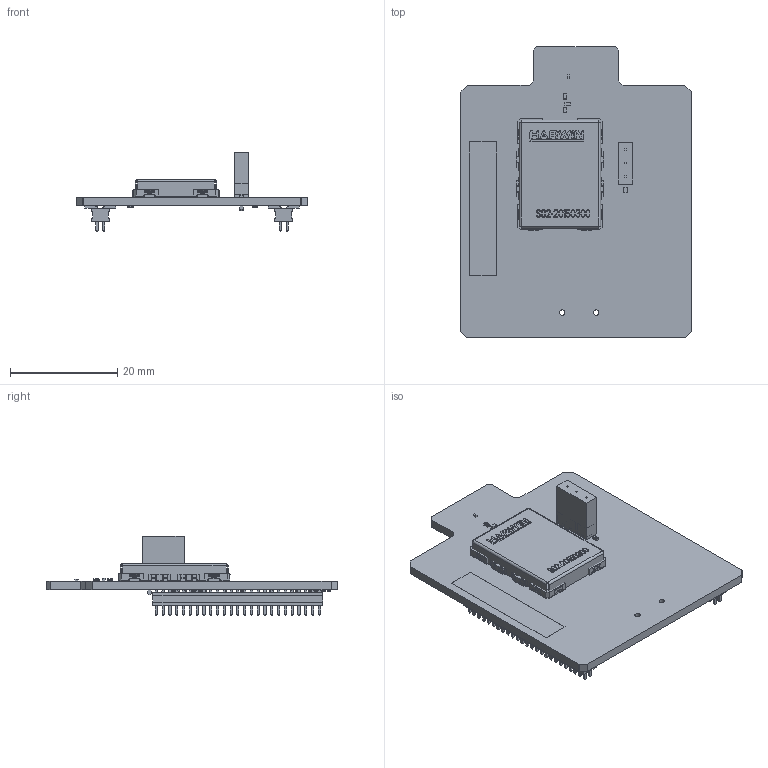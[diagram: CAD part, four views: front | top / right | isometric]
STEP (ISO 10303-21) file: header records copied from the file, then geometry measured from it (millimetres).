
FILE_DESCRIPTION(('Open CASCADE Model'),'2;1');
FILE_NAME('Open CASCADE Shape Model','2024-06-21T18:07:11',('Author'),( 'Open CASCADE'),'Open CASCADE STEP processor 7.5','Open CASCADE 7.5' ,'Unknown');
FILE_SCHEMA(('AUTOMOTIVE_DESIGN { 1 0 10303 214 1 1 1 1 }'));
Length unit declared in the file: millimetre
Products named in the file (121): PCB; Board; Open CASCADE STEP translator 7.5 2.1.1; SB57; R0402; 6964066400; Extruded; SB55; SB48; SB47; SB43; SB41; SB38; SB37; SB34; SB32; SB28; SB20; SB17; SB16; SB14; SB11; SB9; R10; 6964074080; R1; SC2; s0981-46; 6964070320; SC3; Shield clip s0951-46; 6964070080; SC1; 6963949680; SC7; 6963949840; SC8; 6964065280; U2; 6964073040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
Assembly tree (202 placements, depth 4):
  PCB
    Board
      Open CASCADE STEP translator 7.5 2.1.1
    SB57
      R0402
      6964066400
        Extruded
    SB55
      R0402
      6964066400
        Extruded
    SB48
      R0402
      6964066400
        Extruded
    SB47
      R0402
      6964066400
        Extruded
    SB43
      R0402
      6964066400
        Extruded
    SB41
      R0402
      6964066400
        Extruded
    SB38
      R0402
      6964066400
        Extruded
    SB37
      R0402
      6964066400
        Extruded
    SB34
      R0402
      6964066400
        Extruded
    SB32
      R0402
      6964066400
        Extruded
    SB28
      R0402
      6964066400
        Extruded
    SB20
      R0402
      6964066400
        Extruded
    SB17
      R0402
      6964066400
        Extruded
    SB16
      R0402
      6964066400
        Extruded
    SB14
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Bounding box: 43.1 x 54.35 x 14.85 mm (x, y, z)
Volume: 4698.9 mm3; surface area: 9842.3 mm2
Topology: 167 solids, 173 shells, 13007 faces, 31318 edges, 17987 vertices
Faces by surface type: plane 6399, cylinder 3468, bspline 1656, sphere 1180, torus 200, revolution 104
Full cylindrical faces by diameter (mm): 0.2 x1, 1 x5
Entity records: 120002 total; most frequent: CARTESIAN_POINT 24390, ORIENTED_EDGE 17230, DIRECTION 16197, EDGE_CURVE 8616, LINE 7401, VECTOR 7401, VERTEX_POINT 5444, AXIS2_PLACEMENT_3D 4394
